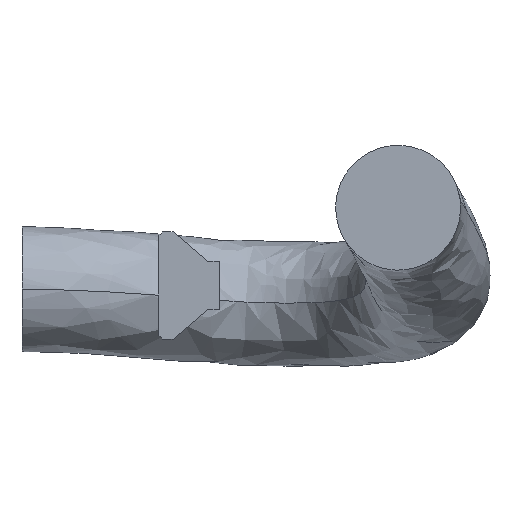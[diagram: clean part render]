
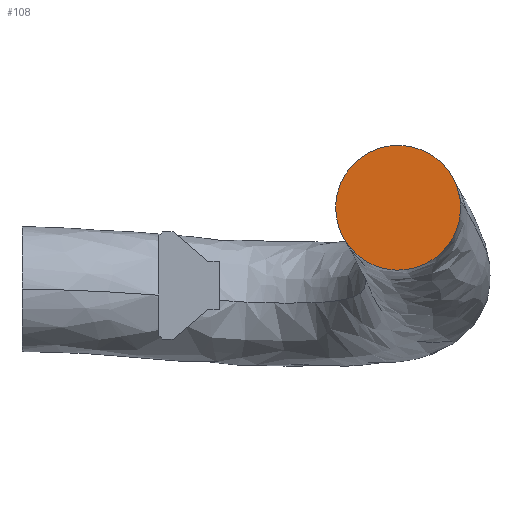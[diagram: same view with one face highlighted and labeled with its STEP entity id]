
A CAD part, front view. The second image highlights one B-rep face of the part: STEP entity #108.
In plain terms, the highlighted planar face has unit normal (-0.002, -1, 0).
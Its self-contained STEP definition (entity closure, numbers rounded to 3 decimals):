
#16 = FACE_OUTER_BOUND ( 'NONE', #835, .T. ) ;
#72 = AXIS2_PLACEMENT_3D ( 'NONE', #933, #137, #124 ) ;
#108 = ADVANCED_FACE ( 'NONE', ( #16 ), #114, .T. ) ;
#114 = PLANE ( 'NONE',  #72 ) ;
#124 = DIRECTION ( 'NONE',  ( 0.992, -0.002, 0.129 ) ) ;
#137 = DIRECTION ( 'NONE',  ( -0.002, -1., 0. ) ) ;
#146 = CIRCLE ( 'NONE', #318, 41. ) ;
#230 = AXIS2_PLACEMENT_3D ( 'NONE', #359, #357, #354 ) ;
#318 = AXIS2_PLACEMENT_3D ( 'NONE', #349, #348, #347 ) ;
#347 = DIRECTION ( 'NONE',  ( 0.992, -0.002, 0.129 ) ) ;
#348 = DIRECTION ( 'NONE',  ( -0.002, -1., 0. ) ) ;
#349 = CARTESIAN_POINT ( 'NONE',  ( 2177., 55.329, 2311. ) ) ;
#354 = DIRECTION ( 'NONE',  ( 0.992, -0.002, 0.129 ) ) ;
#357 = DIRECTION ( 'NONE',  ( -0.002, -1., 0. ) ) ;
#359 = CARTESIAN_POINT ( 'NONE',  ( 2177., 55.329, 2311. ) ) ;
#495 = CARTESIAN_POINT ( 'NONE',  ( 2136.345, 55.412, 2305.695 ) ) ;
#500 = CARTESIAN_POINT ( 'NONE',  ( 2217.655, 55.246, 2316.305 ) ) ;
#515 = CIRCLE ( 'NONE', #230, 41. ) ;
#517 = ORIENTED_EDGE ( 'NONE', *, *, #787, .T. ) ;
#650 = VERTEX_POINT ( 'NONE', #500 ) ;
#665 = VERTEX_POINT ( 'NONE', #495 ) ;
#751 = EDGE_CURVE ( 'NONE', #665, #650, #515, .T. ) ;
#787 = EDGE_CURVE ( 'NONE', #650, #665, #146, .T. ) ;
#835 = EDGE_LOOP ( 'NONE', ( #517, #951 ) ) ;
#933 = CARTESIAN_POINT ( 'NONE',  ( 2177., 55.329, 2311. ) ) ;
#951 = ORIENTED_EDGE ( 'NONE', *, *, #751, .T. ) ;
